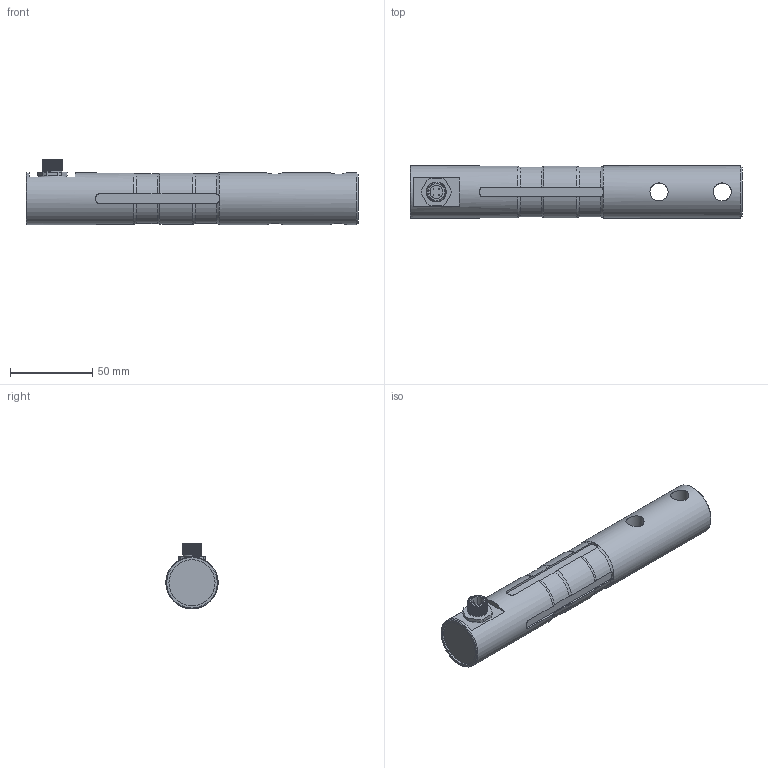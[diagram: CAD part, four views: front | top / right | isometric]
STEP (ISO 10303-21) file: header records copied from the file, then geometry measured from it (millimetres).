
FILE_DESCRIPTION(/* description */ ('Alibre Inc.'),/* implementation_level */ '2;1');
FILE_NAME(/* name */ 'export-66E43BFD-CEC1-44F1-B615-BA0C8CA9AD2B',/* time_stamp */ '2019-02-14T09:17:20+01:00',/* author */ (''),/* organization */ (''),/* preprocessor_version */ 'ST-DEVELOPER v17',/* originating_system */ 'Alibre',/* authorisation */ '');
FILE_SCHEMA (('CONFIG_CONTROL_DESIGN'));
Length unit declared in the file: centimetre
Products named in the file (6): ID_1; ID_2; ID_3
Bounding box: 202 x 31.75 x 39.95 mm (x, y, z)
Volume: 149111.1 mm3; surface area: 27927.6 mm2
Topology: 8 solids, 8 shells, 224 faces, 554 edges, 353 vertices
Faces by surface type: plane 103, cylinder 75, bspline 23, torus 17, cone 6
Full cylindrical faces by diameter (mm): 0.5 x8, 8 x2, 10 x3, 11 x2, 11.5 x1, 12 x1, 13 x1, 28 x1, 31.75 x2
Entity records: 17254 total; most frequent: CARTESIAN_POINT 12237, ORIENTED_EDGE 1028, DIRECTION 656, EDGE_CURVE 509, VERTEX_POINT 339, FACE_BOUND 273, EDGE_LOOP 272, AXIS2_PLACEMENT_3D 257
